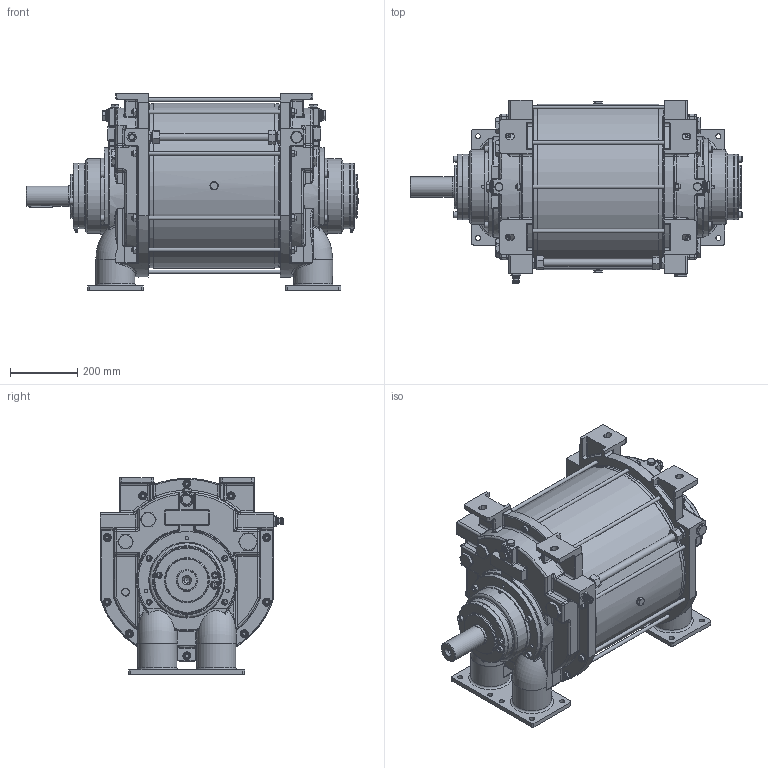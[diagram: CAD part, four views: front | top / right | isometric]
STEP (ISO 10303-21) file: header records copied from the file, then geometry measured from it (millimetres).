
FILE_DESCRIPTION(/* description */ (''),/* implementation_level */ '2;1');
FILE_NAME(/* name */ 'E:\WorkSpace\Designs\1700\1700044.stp',/* time_stamp */ '2022-04-29T13:38:18+02:00',/* author */ ('JJ'),/* organization */ (''),/* preprocessor_version */ 'ST-DEVELOPER v18.1',/* originating_system */ 'Autodesk Inventor 2022',/* authorisation */ '');
FILE_SCHEMA (('CONFIG_CONTROL_DESIGN'));
Products named in the file (1): 1700044
Bounding box: 987.75 x 545.5 x 585 mm (x, y, z)
Volume: 127548752.4 mm3; surface area: 3554345.3 mm2
Topology: 1 solids, 1 shells, 2057 faces, 5238 edges, 3338 vertices
Faces by surface type: plane 765, cylinder 656, cone 224, torus 198, bspline 142, sphere 72
Full cylindrical faces by diameter (mm): 3.3 x4, 8 x2, 10 x2, 10.106 x6, 10.11 x4, 10.75 x10, 12 x40, 13 x24, 15 x17, 17.294 x1, 18 x16, 19.847 x1, 19.984 x1, 20 x6, 21.8 x6, 22 x1, 23.8 x6, 24 x20, 24.5 x3, 26 x2, 27 x2, 28.58 x2, 30 x2, 31.8 x3, 34.93 x1, 35 x2, 39.8 x4, 42.8 x4, 49.8 x2, 52.38 x2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
Entity records: 71693 total; most frequent: CARTESIAN_POINT 21127, ORIENTED_EDGE 10340, DIRECTION 10083, EDGE_CURVE 5170, AXIS2_PLACEMENT_3D 4071, VERTEX_POINT 3338, EDGE_LOOP 2372, CIRCLE 2120
